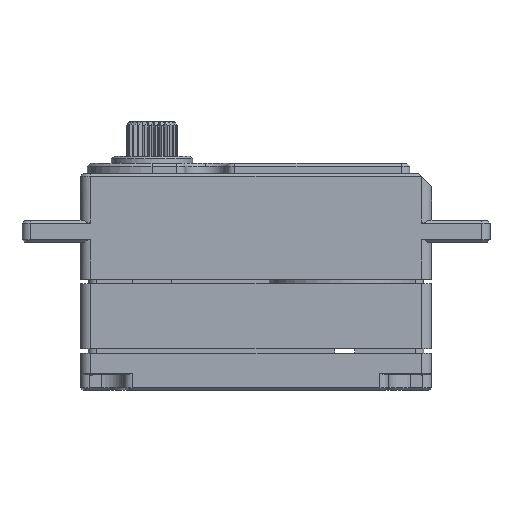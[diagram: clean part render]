
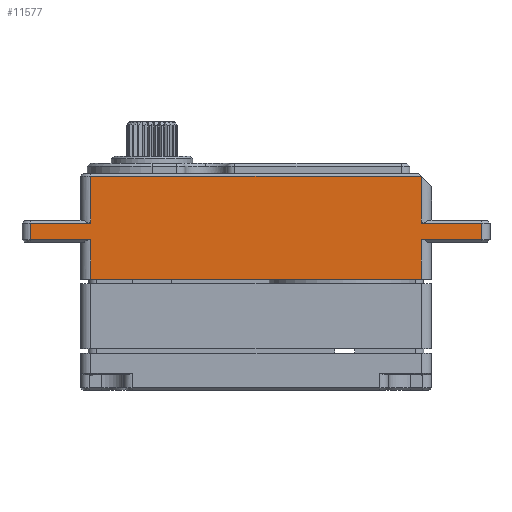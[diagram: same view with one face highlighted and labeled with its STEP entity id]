
A CAD part, front view. The second image highlights one B-rep face of the part: STEP entity #11577.
In plain terms, the highlighted planar face has unit normal (0, -1, 0).
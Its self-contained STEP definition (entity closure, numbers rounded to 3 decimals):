
#42 = LINE ( 'NONE', #2677, #16344 ) ;
#204 = CARTESIAN_POINT ( 'NONE',  ( -80.624, -25.198, 4.5 ) ) ;
#303 = VECTOR ( 'NONE', #14946, 1000. ) ;
#352 = EDGE_CURVE ( 'NONE', #8032, #9565, #9278, .T. ) ;
#685 = CARTESIAN_POINT ( 'NONE',  ( -80.624, -25.198, 0.3 ) ) ;
#1072 = VECTOR ( 'NONE', #12790, 1000. ) ;
#1534 = ORIENTED_EDGE ( 'NONE', *, *, #2832, .T. ) ;
#2252 = ORIENTED_EDGE ( 'NONE', *, *, #6670, .F. ) ;
#2508 = VERTEX_POINT ( 'NONE', #9915 ) ;
#2677 = CARTESIAN_POINT ( 'NONE',  ( -35.574, -25.198, 4.5 ) ) ;
#2749 = DIRECTION ( 'NONE',  ( -1., 0., 0. ) ) ;
#2800 = DIRECTION ( 'NONE',  ( 0., 0., 1. ) ) ;
#2832 = EDGE_CURVE ( 'NONE', #8267, #8032, #42, .T. ) ;
#3334 = CARTESIAN_POINT ( 'NONE',  ( -42.524, -25.198, 6.4 ) ) ;
#3399 = CARTESIAN_POINT ( 'NONE',  ( -81.824, -25.198, -0.1 ) ) ;
#3418 = CARTESIAN_POINT ( 'NONE',  ( -80.624, -25.198, 4.5 ) ) ;
#3984 = EDGE_CURVE ( 'NONE', #2508, #5209, #9544, .T. ) ;
#4602 = CARTESIAN_POINT ( 'NONE',  ( -87.574, -25.198, 6.4 ) ) ;
#4956 = VECTOR ( 'NONE', #5565, 1000. ) ;
#5209 = VERTEX_POINT ( 'NONE', #7382 ) ;
#5257 = VERTEX_POINT ( 'NONE', #3334 ) ;
#5565 = DIRECTION ( 'NONE',  ( 0., 0., -1. ) ) ;
#5755 = VERTEX_POINT ( 'NONE', #18608 ) ;
#5769 = CARTESIAN_POINT ( 'NONE',  ( -42.524, -25.198, 0.3 ) ) ;
#6043 = DIRECTION ( 'NONE',  ( 1., 0., 0. ) ) ;
#6309 = AXIS2_PLACEMENT_3D ( 'NONE', #7830, #15607, #15469 ) ;
#6670 = EDGE_CURVE ( 'NONE', #11850, #10710, #17621, .T. ) ;
#6763 = VECTOR ( 'NONE', #9717, 1000. ) ;
#6774 = CARTESIAN_POINT ( 'NONE',  ( -35.574, -25.198, 6.4 ) ) ;
#6942 = ORIENTED_EDGE ( 'NONE', *, *, #16999, .T. ) ;
#6963 = CARTESIAN_POINT ( 'NONE',  ( -80.624, -25.198, 6.4 ) ) ;
#7147 = LINE ( 'NONE', #3418, #8849 ) ;
#7339 = VECTOR ( 'NONE', #10673, 1000. ) ;
#7344 = CARTESIAN_POINT ( 'NONE',  ( -80.624, -25.198, 11.8 ) ) ;
#7382 = CARTESIAN_POINT ( 'NONE',  ( -87.574, -25.198, 4.5 ) ) ;
#7830 = CARTESIAN_POINT ( 'NONE',  ( -81.824, -25.198, 0.3 ) ) ;
#8032 = VERTEX_POINT ( 'NONE', #14925 ) ;
#8186 = CARTESIAN_POINT ( 'NONE',  ( -42.524, -25.198, 0.3 ) ) ;
#8238 = EDGE_CURVE ( 'NONE', #5209, #11055, #7147, .T. ) ;
#8267 = VERTEX_POINT ( 'NONE', #11203 ) ;
#8442 = LINE ( 'NONE', #8186, #6763 ) ;
#8514 = ORIENTED_EDGE ( 'NONE', *, *, #8238, .T. ) ;
#8706 = CARTESIAN_POINT ( 'NONE',  ( -42.524, -25.198, 6.4 ) ) ;
#8847 = ORIENTED_EDGE ( 'NONE', *, *, #12622, .T. ) ;
#8849 = VECTOR ( 'NONE', #14394, 1000. ) ;
#9267 = DIRECTION ( 'NONE',  ( 0., 0., 1. ) ) ;
#9278 = LINE ( 'NONE', #10831, #12866 ) ;
#9544 = LINE ( 'NONE', #10406, #4956 ) ;
#9565 = VERTEX_POINT ( 'NONE', #6774 ) ;
#9717 = DIRECTION ( 'NONE',  ( 0., 0., 1. ) ) ;
#9915 = CARTESIAN_POINT ( 'NONE',  ( -87.574, -25.198, 6.4 ) ) ;
#9970 = LINE ( 'NONE', #15912, #1072 ) ;
#10322 = ORIENTED_EDGE ( 'NONE', *, *, #14444, .T. ) ;
#10406 = CARTESIAN_POINT ( 'NONE',  ( -87.574, -25.198, 4.2 ) ) ;
#10457 = VECTOR ( 'NONE', #11672, 1000. ) ;
#10673 = DIRECTION ( 'NONE',  ( -1., 0., 0. ) ) ;
#10710 = VERTEX_POINT ( 'NONE', #19303 ) ;
#10777 = LINE ( 'NONE', #685, #14363 ) ;
#10831 = CARTESIAN_POINT ( 'NONE',  ( -35.574, -25.198, 0.3 ) ) ;
#11055 = VERTEX_POINT ( 'NONE', #204 ) ;
#11203 = CARTESIAN_POINT ( 'NONE',  ( -42.524, -25.198, 4.5 ) ) ;
#11474 = LINE ( 'NONE', #4602, #7339 ) ;
#11577 = ADVANCED_FACE ( 'NONE', ( #17281 ), #12550, .F. ) ;
#11672 = DIRECTION ( 'NONE',  ( -1., 0., 0. ) ) ;
#11830 = ORIENTED_EDGE ( 'NONE', *, *, #18958, .T. ) ;
#11850 = VERTEX_POINT ( 'NONE', #13042 ) ;
#11907 = EDGE_CURVE ( 'NONE', #13091, #19939, #10777, .T. ) ;
#12008 = CARTESIAN_POINT ( 'NONE',  ( -80.624, -25.198, 11.8 ) ) ;
#12441 = LINE ( 'NONE', #5769, #13628 ) ;
#12550 = PLANE ( 'NONE',  #6309 ) ;
#12622 = EDGE_CURVE ( 'NONE', #19939, #2508, #11474, .T. ) ;
#12790 = DIRECTION ( 'NONE',  ( 0., 0., -1. ) ) ;
#12866 = VECTOR ( 'NONE', #9267, 1000. ) ;
#12879 = EDGE_CURVE ( 'NONE', #9565, #5257, #19609, .T. ) ;
#12979 = ORIENTED_EDGE ( 'NONE', *, *, #3984, .T. ) ;
#13042 = CARTESIAN_POINT ( 'NONE',  ( -42.524, -25.198, -0.1 ) ) ;
#13091 = VERTEX_POINT ( 'NONE', #7344 ) ;
#13191 = DIRECTION ( 'NONE',  ( 0., 0., -1. ) ) ;
#13628 = VECTOR ( 'NONE', #2800, 1000. ) ;
#13672 = VECTOR ( 'NONE', #2749, 1000. ) ;
#14363 = VECTOR ( 'NONE', #13191, 1000. ) ;
#14394 = DIRECTION ( 'NONE',  ( 1., 0., 0. ) ) ;
#14444 = EDGE_CURVE ( 'NONE', #5257, #5755, #12441, .T. ) ;
#14925 = CARTESIAN_POINT ( 'NONE',  ( -35.574, -25.198, 4.5 ) ) ;
#14946 = DIRECTION ( 'NONE',  ( -1., 0., 0. ) ) ;
#15469 = DIRECTION ( 'NONE',  ( -1., 0., 0. ) ) ;
#15607 = DIRECTION ( 'NONE',  ( 0., 1., 0. ) ) ;
#15912 = CARTESIAN_POINT ( 'NONE',  ( -80.624, -25.198, 0.3 ) ) ;
#16344 = VECTOR ( 'NONE', #6043, 1000. ) ;
#16785 = ORIENTED_EDGE ( 'NONE', *, *, #12879, .T. ) ;
#16999 = EDGE_CURVE ( 'NONE', #11055, #10710, #9970, .T. ) ;
#17005 = ORIENTED_EDGE ( 'NONE', *, *, #11907, .T. ) ;
#17281 = FACE_OUTER_BOUND ( 'NONE', #18277, .T. ) ;
#17621 = LINE ( 'NONE', #3399, #303 ) ;
#17772 = ORIENTED_EDGE ( 'NONE', *, *, #18049, .T. ) ;
#18049 = EDGE_CURVE ( 'NONE', #11850, #8267, #8442, .T. ) ;
#18277 = EDGE_LOOP ( 'NONE', ( #16785, #10322, #11830, #17005, #8847, #12979, #8514, #6942, #2252, #17772, #1534, #19214 ) ) ;
#18608 = CARTESIAN_POINT ( 'NONE',  ( -42.524, -25.198, 11.8 ) ) ;
#18958 = EDGE_CURVE ( 'NONE', #5755, #13091, #19937, .T. ) ;
#19214 = ORIENTED_EDGE ( 'NONE', *, *, #352, .T. ) ;
#19303 = CARTESIAN_POINT ( 'NONE',  ( -80.624, -25.198, -0.1 ) ) ;
#19609 = LINE ( 'NONE', #8706, #10457 ) ;
#19937 = LINE ( 'NONE', #12008, #13672 ) ;
#19939 = VERTEX_POINT ( 'NONE', #6963 ) ;
